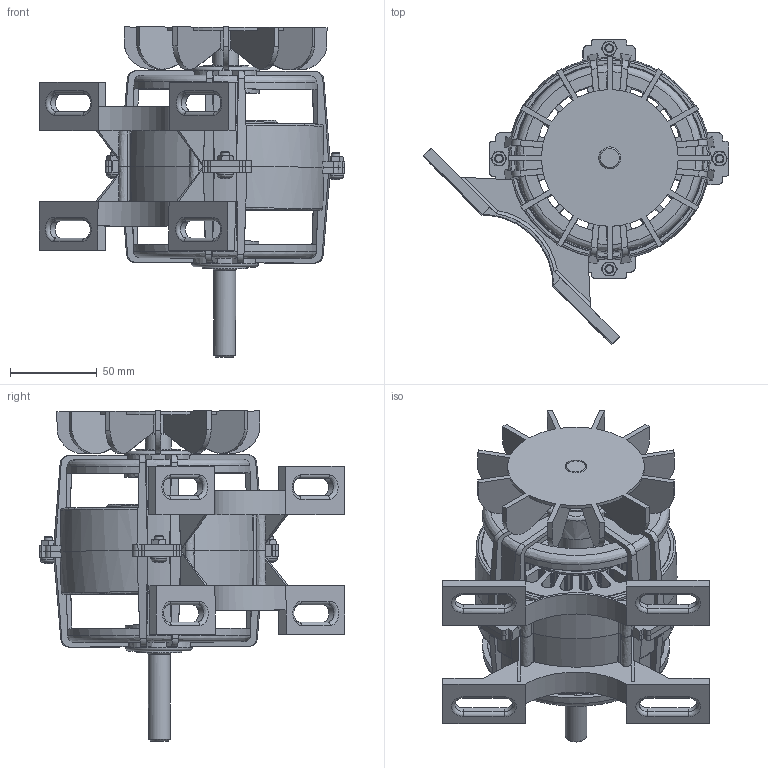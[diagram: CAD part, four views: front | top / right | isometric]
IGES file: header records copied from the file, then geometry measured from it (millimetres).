
Global section: file name: MOTOR 1X2 GZ_Substitute_2; native system: Autodesk Inventor 2015; preprocessor: unknown; author: User; date: 20180209.184035; units: inch
Bounding box: 176.63 x 176.66 x 190.86 mm (x, y, z)
Volume: 585768.2 mm3; surface area: 238039.2 mm2
Topology: 8 solids, 8 shells, 1240 faces, 3557 edges, 2322 vertices
Faces by surface type: bspline 1240
